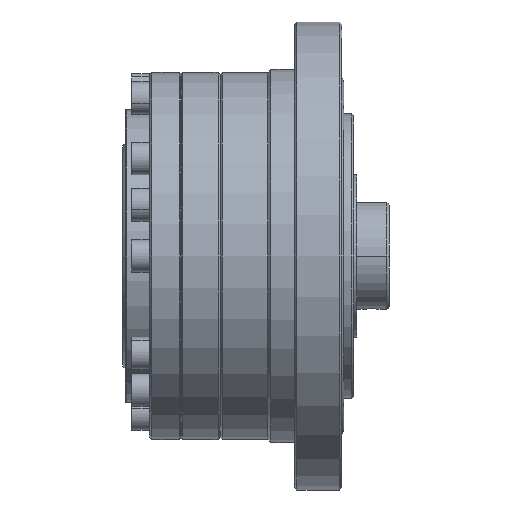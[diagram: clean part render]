
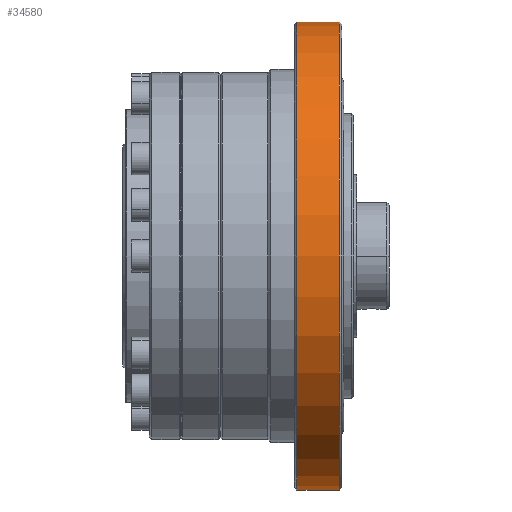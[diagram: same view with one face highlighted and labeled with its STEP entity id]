
A CAD part, front view. The second image highlights one B-rep face of the part: STEP entity #34580.
In plain terms, the highlighted cylindrical face has radius 39.5 mm (diameter 79 mm), a partial arc.
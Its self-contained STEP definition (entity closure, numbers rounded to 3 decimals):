
#44 = DIRECTION ( 'NONE',  ( -1., 0., 0. ) ) ;
#1341 = CYLINDRICAL_SURFACE ( 'NONE', #31520, 39.5 ) ;
#2502 = CARTESIAN_POINT ( 'NONE',  ( 15.2, 0., 39.5 ) ) ;
#3323 = ORIENTED_EDGE ( 'NONE', *, *, #18757, .F. ) ;
#5380 = DIRECTION ( 'NONE',  ( 0., 0., 1. ) ) ;
#6414 = DIRECTION ( 'NONE',  ( 1., 0., 0. ) ) ;
#6591 = ORIENTED_EDGE ( 'NONE', *, *, #12694, .T. ) ;
#6627 = VERTEX_POINT ( 'NONE', #33449 ) ;
#7775 = CARTESIAN_POINT ( 'NONE',  ( -15.401, 0., -39.5 ) ) ;
#7849 = VECTOR ( 'NONE', #16314, 1000. ) ;
#9578 = LINE ( 'NONE', #7775, #25835 ) ;
#9793 = AXIS2_PLACEMENT_3D ( 'NONE', #24678, #6414, #27712 ) ;
#11044 = VERTEX_POINT ( 'NONE', #24360 ) ;
#11337 = DIRECTION ( 'NONE',  ( -1., 0., 0. ) ) ;
#12694 = EDGE_CURVE ( 'NONE', #24797, #38019, #31158, .T. ) ;
#13014 = CIRCLE ( 'NONE', #9793, 39.5 ) ;
#15006 = ORIENTED_EDGE ( 'NONE', *, *, #27279, .T. ) ;
#16314 = DIRECTION ( 'NONE',  ( -1., 0., 0. ) ) ;
#16528 = EDGE_LOOP ( 'NONE', ( #3323, #15006, #6591, #24180 ) ) ;
#17482 = EDGE_CURVE ( 'NONE', #38019, #11044, #13014, .T. ) ;
#18133 = CARTESIAN_POINT ( 'NONE',  ( 22.4, 0., 0. ) ) ;
#18757 = EDGE_CURVE ( 'NONE', #6627, #11044, #9578, .T. ) ;
#21229 = DIRECTION ( 'NONE',  ( 0., 0., 1. ) ) ;
#23626 = CARTESIAN_POINT ( 'NONE',  ( -15.401, 0., 0. ) ) ;
#23962 = AXIS2_PLACEMENT_3D ( 'NONE', #18133, #44, #21229 ) ;
#24180 = ORIENTED_EDGE ( 'NONE', *, *, #17482, .T. ) ;
#24360 = CARTESIAN_POINT ( 'NONE',  ( 15.2, 0., -39.5 ) ) ;
#24678 = CARTESIAN_POINT ( 'NONE',  ( 15.2, 0., 0. ) ) ;
#24797 = VERTEX_POINT ( 'NONE', #29263 ) ;
#25835 = VECTOR ( 'NONE', #32653, 1000. ) ;
#27279 = EDGE_CURVE ( 'NONE', #6627, #24797, #36960, .T. ) ;
#27712 = DIRECTION ( 'NONE',  ( 0., 0., -1. ) ) ;
#29263 = CARTESIAN_POINT ( 'NONE',  ( 22.4, 0., 39.5 ) ) ;
#31158 = LINE ( 'NONE', #34527, #7849 ) ;
#31520 = AXIS2_PLACEMENT_3D ( 'NONE', #23626, #11337, #5380 ) ;
#32653 = DIRECTION ( 'NONE',  ( -1., 0., 0. ) ) ;
#33449 = CARTESIAN_POINT ( 'NONE',  ( 22.4, 0., -39.5 ) ) ;
#33574 = FACE_OUTER_BOUND ( 'NONE', #16528, .T. ) ;
#34527 = CARTESIAN_POINT ( 'NONE',  ( -15.401, 0., 39.5 ) ) ;
#34580 = ADVANCED_FACE ( 'NONE', ( #33574 ), #1341, .T. ) ;
#36960 = CIRCLE ( 'NONE', #23962, 39.5 ) ;
#38019 = VERTEX_POINT ( 'NONE', #2502 ) ;
